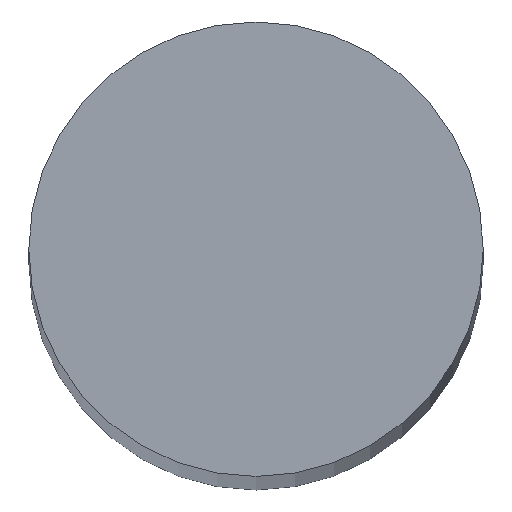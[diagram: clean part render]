
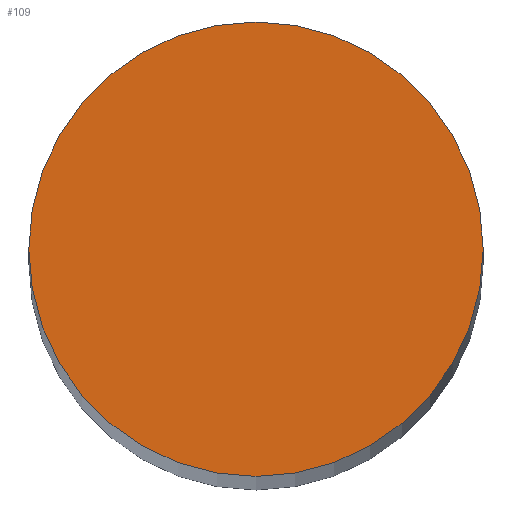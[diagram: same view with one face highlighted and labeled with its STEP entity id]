
A CAD part, top view. The second image highlights one B-rep face of the part: STEP entity #109.
In plain terms, the highlighted planar face has unit normal (0, 0, 1).
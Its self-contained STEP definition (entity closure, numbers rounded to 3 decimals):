
#24 = VERTEX_POINT('',#25);
#25 = CARTESIAN_POINT('',(689.,0.,-10.));
#32 = CYLINDRICAL_SURFACE('',#33,4.);
#33 = AXIS2_PLACEMENT_3D('',#34,#35,#36);
#34 = CARTESIAN_POINT('',(685.,0.,-147.));
#35 = DIRECTION('',(-0.,-0.,-1.));
#36 = DIRECTION('',(1.,0.,0.));
#51 = EDGE_CURVE('',#24,#24,#52,.T.);
#52 = SURFACE_CURVE('',#53,(#58,#65),.PCURVE_S1.);
#53 = CIRCLE('',#54,4.);
#54 = AXIS2_PLACEMENT_3D('',#55,#56,#57);
#55 = CARTESIAN_POINT('',(685.,0.,-10.));
#56 = DIRECTION('',(0.,0.,1.));
#57 = DIRECTION('',(1.,0.,0.));
#58 = PCURVE('',#32,#59);
#59 = DEFINITIONAL_REPRESENTATION('',(#60),#64);
#60 = LINE('',#61,#62);
#61 = CARTESIAN_POINT('',(-0.,-137.));
#62 = VECTOR('',#63,1.);
#63 = DIRECTION('',(-1.,0.));
#64 = ( GEOMETRIC_REPRESENTATION_CONTEXT(2) 
PARAMETRIC_REPRESENTATION_CONTEXT() REPRESENTATION_CONTEXT('2D SPACE',''
  ) );
#65 = PCURVE('',#66,#71);
#66 = PLANE('',#67);
#67 = AXIS2_PLACEMENT_3D('',#68,#69,#70);
#68 = CARTESIAN_POINT('',(685.,0.,-10.));
#69 = DIRECTION('',(0.,0.,1.));
#70 = DIRECTION('',(1.,0.,-0.));
#71 = DEFINITIONAL_REPRESENTATION('',(#72),#76);
#72 = CIRCLE('',#73,4.);
#73 = AXIS2_PLACEMENT_2D('',#74,#75);
#74 = CARTESIAN_POINT('',(0.,0.));
#75 = DIRECTION('',(1.,0.));
#76 = ( GEOMETRIC_REPRESENTATION_CONTEXT(2) 
PARAMETRIC_REPRESENTATION_CONTEXT() REPRESENTATION_CONTEXT('2D SPACE',''
  ) );
#109 = ADVANCED_FACE('',(#110),#66,.T.);
#110 = FACE_BOUND('',#111,.T.);
#111 = EDGE_LOOP('',(#112));
#112 = ORIENTED_EDGE('',*,*,#51,.T.);
